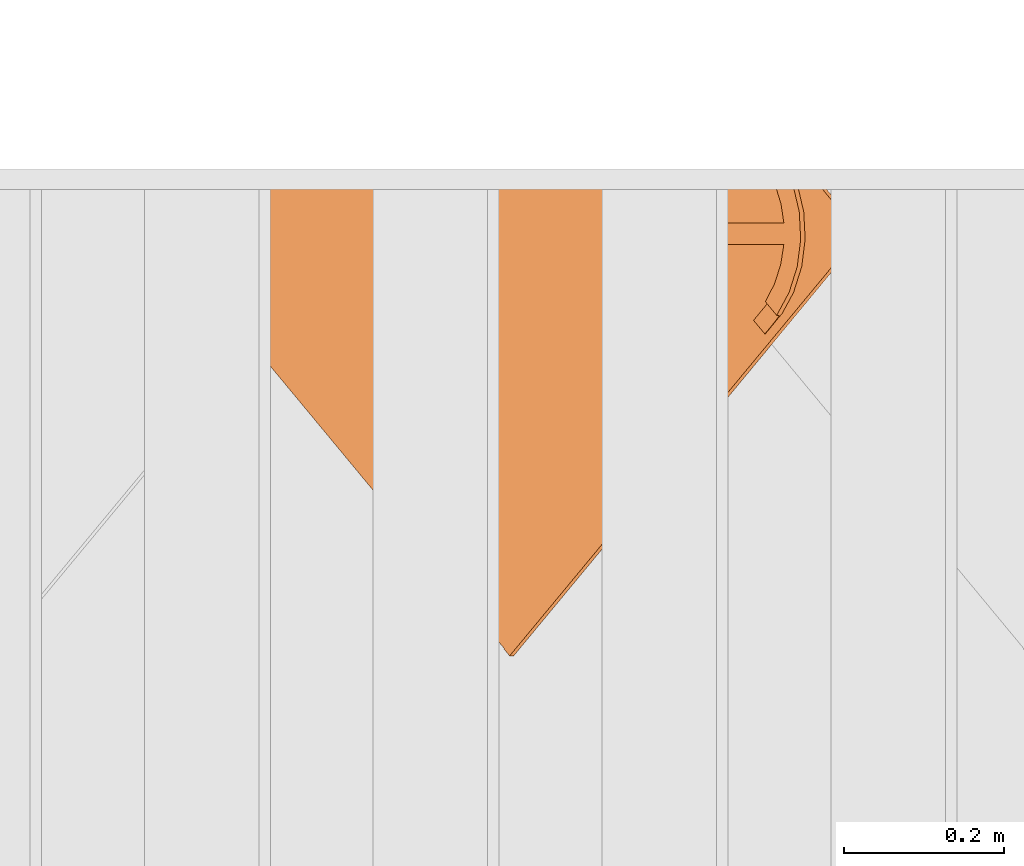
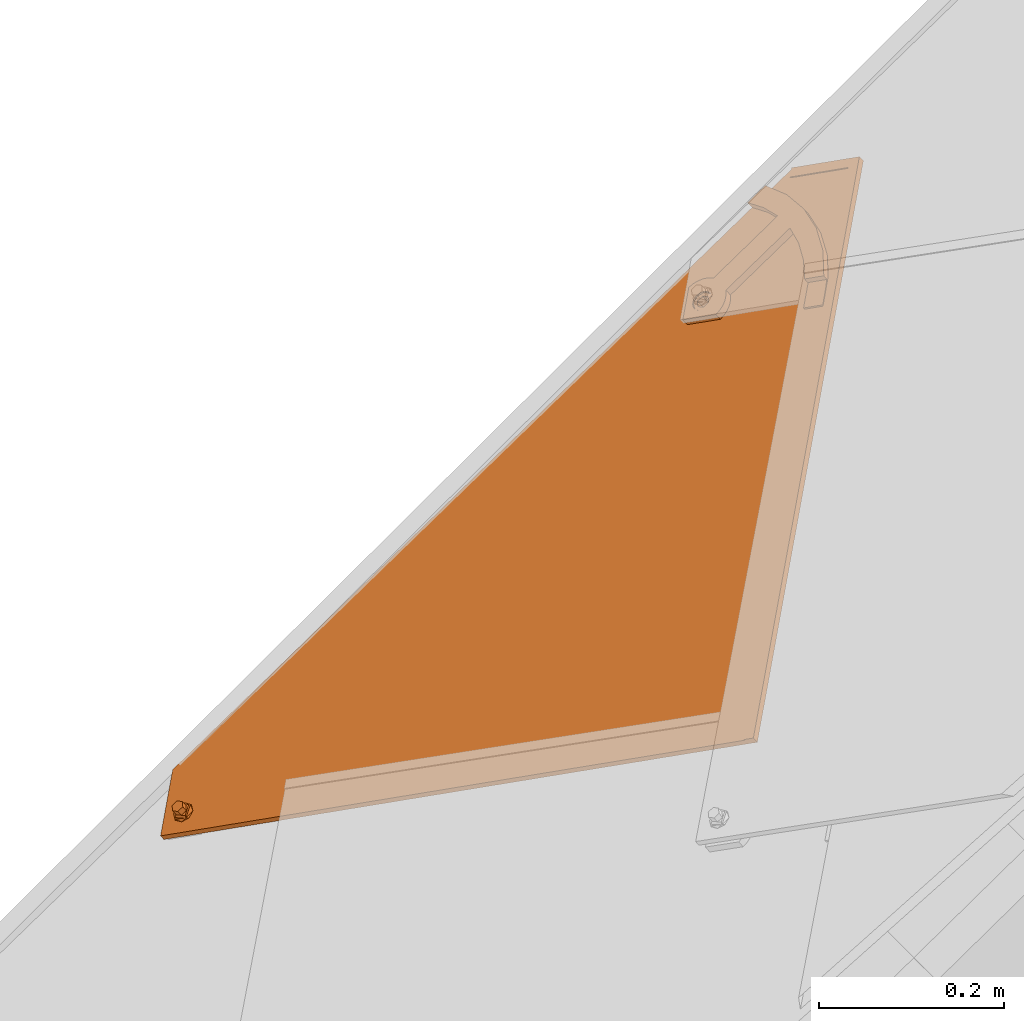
# One storey, part 91 of 151: 1 proxy.
"""IFC2X3 building model written with IfcOpenShell, lengths in millimetres."""

from ifc_helpers import new_model, entity, si_unit, converted_unit, derived_unit, direction, frame, origin, place, context, subcontext, project, spatial, faceted_brep, source, transform, mapped, material, material_list, type_object, type_shapes, element, save


model = new_model("IFC2X3")

# Units and contexts
model_context = context("Model", 3, precision=0.01, world=origin(), true_north=direction((6.12303176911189e-17, 1.0)))
body_context = subcontext(model_context, "Body", "Model", "MODEL_VIEW")
ifc_project = project(units=[si_unit("LENGTHUNIT", "METRE", prefix="MILLI"), si_unit("AREAUNIT", "SQUARE_METRE"), si_unit("VOLUMEUNIT", "CUBIC_METRE"), converted_unit("PLANEANGLEUNIT", "DEGREE", entity("IfcRatioMeasure", 0.0174532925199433), si_unit("PLANEANGLEUNIT", "RADIAN"), dimensions=[0, 0, 0, 0, 0, 0, 0]), si_unit("MASSUNIT", "GRAM", prefix="KILO"), derived_unit("MASSDENSITYUNIT", [(si_unit("MASSUNIT", "GRAM", prefix="KILO"), 1), (si_unit("LENGTHUNIT", "METRE"), -3)]), si_unit("TIMEUNIT", "SECOND"), si_unit("FREQUENCYUNIT", "HERTZ"), si_unit("THERMODYNAMICTEMPERATUREUNIT", "DEGREE_CELSIUS"), derived_unit("THERMALTRANSMITTANCEUNIT", [(si_unit("MASSUNIT", "GRAM", prefix="KILO"), 1), (si_unit("THERMODYNAMICTEMPERATUREUNIT", "KELVIN"), -1), (si_unit("TIMEUNIT", "SECOND"), -3)]), derived_unit("VOLUMETRICFLOWRATEUNIT", [(si_unit("LENGTHUNIT", "METRE"), 3), (si_unit("TIMEUNIT", "SECOND"), -1)]), si_unit("ELECTRICCURRENTUNIT", "AMPERE"), si_unit("ELECTRICVOLTAGEUNIT", "VOLT"), si_unit("POWERUNIT", "WATT"), si_unit("FORCEUNIT", "NEWTON", prefix="KILO"), si_unit("ILLUMINANCEUNIT", "LUX"), si_unit("LUMINOUSFLUXUNIT", "LUMEN"), si_unit("LUMINOUSINTENSITYUNIT", "CANDELA"), derived_unit("USERDEFINED", [(si_unit("MASSUNIT", "GRAM", prefix="KILO"), -1), (si_unit("LENGTHUNIT", "METRE"), -2), (si_unit("TIMEUNIT", "SECOND"), 3), (si_unit("LUMINOUSFLUXUNIT", "LUMEN"), 1)]), derived_unit("LINEARVELOCITYUNIT", [(si_unit("LENGTHUNIT", "METRE"), 1), (si_unit("TIMEUNIT", "SECOND"), -1)]), si_unit("PRESSUREUNIT", "PASCAL"), derived_unit("USERDEFINED", [(si_unit("LENGTHUNIT", "METRE"), -2), (si_unit("MASSUNIT", "GRAM", prefix="KILO"), 1), (si_unit("TIMEUNIT", "SECOND"), -2)])], contexts=[model_context])

# Site, building, storey
site_placement = place(None, origin())
site = spatial("IfcSite", under=ifc_project, at=site_placement, Name="Default", CompositionType="ELEMENT")
building_placement = place(site_placement, origin())
building = spatial("IfcBuilding", under=site, at=building_placement, CompositionType="ELEMENT")
storey_placement = place(building_placement, origin())
storey = spatial("IfcBuildingStorey", under=building, at=storey_placement, Name="Level 1", CompositionType="ELEMENT", Elevation=0.0)

# Proxy
ifc_material_1 = material(Name="Rubber - Sunstyle - Black")
ifc_material_2 = material(Name="Glass - Sunstyle - Tainted Black")
ifc_material_list_1 = material_list([ifc_material_1, ifc_material_2])
ifc_material_list_2 = material_list([ifc_material_1, ifc_material_2])
building_element_proxy_type = type_object("IfcBuildingElementProxyType", Name="Shingle Left - Black", PredefinedType="NOTDEFINED", material=ifc_material_list_2)
shared_shape = source(origin(), body_context, "Body", "Brep", [
    faceted_brep([(0.0, -484.792260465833, 4.00636906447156), (-5.77420283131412, -488.125530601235, 4.06219304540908), (-5.77420283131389, -487.757221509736, 26.0540623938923), (0.0, -484.423951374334, 25.9982384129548), (-5.77420283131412, -494.792070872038, 4.17384100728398), (-5.7742028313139, -494.42376178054, 26.1657103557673), (0.0, -498.12534100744, 4.22966498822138), (0.0, -497.757031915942, 26.2215343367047), (5.77420283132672, -494.792070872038, 4.17384100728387), (5.77420283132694, -494.42376178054, 26.1657103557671), (5.77420283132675, -488.125530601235, 4.06219304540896), (5.77420283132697, -487.757221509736, 26.0540623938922), (-8.60370416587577, -499.692989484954, 26.2539568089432), (0.0, -503.256260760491, 26.3136327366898), (-12.1674751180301, -491.090491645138, 26.1098863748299), (-8.60370416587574, -482.487993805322, 25.9658159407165), (0.0, -478.924722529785, 25.9061400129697), (8.60370416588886, -482.487993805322, 25.9658159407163), (12.1674751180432, -491.090491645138, 26.1098863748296), (8.60370416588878, -499.692989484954, 26.253956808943), (-11.324244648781, -488.795414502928, 28.4227283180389), (-9.75647455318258, -491.019476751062, 30.3502110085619), (0.0, -483.706401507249, 30.9829114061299), (0.0, -482.465903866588, 30.4025647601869), (0.0, -480.308353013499, 29.3931896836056), (0.0, -502.700216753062, 27.5886907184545), (0.0, -501.756640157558, 29.7523951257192), (0.0, -498.307264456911, 31.2274395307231), (0.0, -479.437758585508, 27.1991024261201), (-6.32324569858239, -494.657048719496, 31.1663074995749), (-6.32324569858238, -487.356617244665, 31.0440434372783), (11.3242446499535, -493.306834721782, 28.498283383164), (9.84888015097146, -492.093883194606, 30.2713428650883), (6.32324569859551, -487.356617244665, 31.0440434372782), (6.32324569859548, -494.657048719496, 31.1663074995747), (-6.32324569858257, -494.523020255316, 39.1691956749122), (0.0, -498.173235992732, 39.2303277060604), (0.0, -490.8728045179, 39.1080636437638), (-6.32324569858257, -487.222588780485, 39.0469316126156), (6.32324569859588, -494.523020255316, 39.1691956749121), (6.32324569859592, -487.222588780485, 39.0469316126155), (0.0, -483.572373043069, 38.9857995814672), (0.0, -491.458800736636, 4.11801702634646)], [[[0, 1, 2, 3]], [[1, 4, 5, 2]], [[4, 6, 7, 5]], [[6, 8, 9, 7]], [[8, 10, 11, 9]], [[10, 0, 3, 11]], [[12, 7, 13]], [[7, 12, 5]], [[14, 5, 12]], [[5, 14, 2]], [[15, 2, 14]], [[3, 2, 15]], [[15, 16, 3]], [[16, 17, 3]], [[11, 3, 17]], [[11, 17, 18]], [[9, 11, 18]], [[18, 19, 9]], [[7, 9, 19]], [[19, 13, 7]], [[20, 14, 12]], [[21, 22, 23, 24]], [[24, 20, 21]], [[25, 20, 12]], [[26, 27, 21]], [[15, 14, 20]], [[12, 13, 25]], [[20, 28, 15]], [[28, 20, 24]], [[21, 27, 29]], [[21, 29, 30]], [[26, 21, 20]], [[20, 25, 26]], [[15, 28, 16]], [[21, 30, 22]], [[31, 18, 17]], [[28, 31, 17]], [[32, 27, 26]], [[26, 31, 32]], [[26, 25, 31]], [[25, 19, 31]], [[17, 16, 28]], [[31, 19, 18]], [[24, 31, 28]], [[33, 34, 32]], [[23, 22, 33]], [[24, 32, 31]], [[27, 32, 34]], [[32, 23, 33]], [[19, 25, 13]], [[32, 24, 23]], [[35, 36, 37]], [[37, 38, 35]], [[36, 39, 37]], [[40, 37, 39]], [[37, 40, 41]], [[37, 41, 38]], [[42, 6, 4]], [[4, 1, 42]], [[1, 0, 42]], [[42, 8, 6]], [[0, 10, 42]], [[8, 42, 10]], [[22, 30, 38, 41]], [[30, 29, 35, 38]], [[29, 27, 36, 35]], [[27, 34, 39, 36]], [[34, 33, 40, 39]], [[33, 22, 41, 40]]]),
    faceted_brep([(0.0, 284.339364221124, 20.2838091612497), (0.0, 288.838732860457, 20.2084559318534), (-8.60370416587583, 287.902635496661, 20.224133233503), (8.60370416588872, 287.902635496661, 20.2241332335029), (6.64022859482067, 292.671933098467, 20.1442593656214), (12.1674751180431, 296.505133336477, 20.0800627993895), (6.64022859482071, 300.338333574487, 20.0158662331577), (8.6037041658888, 305.107631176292, 19.9359923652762), (0.0, 304.171533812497, 19.9516696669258), (0.0, 308.670902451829, 19.8763164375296), (-8.60370416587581, 305.107631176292, 19.9359923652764), (-6.64022859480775, 300.338333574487, 20.0158662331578), (-12.1674751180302, 296.505133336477, 20.0800627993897), (-6.64022859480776, 292.671933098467, 20.1442593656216), (-6.64022823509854, 300.070410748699, 4.01810959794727), (0.0, 303.90361077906, 3.95391303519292), (-6.64022823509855, 292.404010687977, 4.14650272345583), (0.0, 288.570810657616, 4.21069928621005), (6.64022823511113, 292.404010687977, 4.1465027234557), (6.64022823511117, 300.070410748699, 4.01810959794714), (-8.603704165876, 287.634712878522, 4.22637659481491), (0.0, 284.071441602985, 4.28605252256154), (-12.1674751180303, 296.237210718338, 4.08230616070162), (-8.60370416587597, 304.839708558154, 3.93823572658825), (0.0, 308.402979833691, 3.87855979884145), (8.60370416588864, 304.839708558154, 3.93823572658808), (12.1674751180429, 296.237210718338, 4.08230616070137), (8.60370416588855, 287.634712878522, 4.22637659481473)], [[[0, 1, 2]], [[1, 0, 3]], [[3, 4, 1]], [[4, 3, 5]], [[6, 4, 5]], [[5, 7, 6]], [[7, 8, 6]], [[8, 7, 9]], [[8, 9, 10]], [[10, 11, 8]], [[12, 11, 10]], [[2, 13, 12]], [[12, 13, 11]], [[13, 2, 1]], [[8, 11, 14, 15]], [[11, 13, 16, 14]], [[13, 1, 17, 16]], [[1, 4, 18, 17]], [[4, 6, 19, 18]], [[6, 8, 15, 19]], [[20, 17, 21]], [[17, 20, 16]], [[22, 16, 20]], [[14, 16, 22]], [[23, 14, 22]], [[15, 14, 23]], [[23, 24, 15]], [[24, 25, 15]], [[19, 15, 25]], [[19, 25, 26]], [[26, 18, 19]], [[26, 27, 18]], [[17, 18, 27]], [[27, 21, 17]], [[24, 23, 10, 9]], [[10, 23, 22, 12]], [[20, 21, 0, 2]], [[20, 2, 12, 22]], [[21, 27, 3, 0]], [[3, 27, 26, 5]], [[25, 24, 9, 7]], [[25, 7, 5, 26]]]),
    faceted_brep([(518.309865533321, -8.21171787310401, 16.4411500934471), (526.794551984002, 0.272968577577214, 16.299052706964), (526.794551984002, 0.298086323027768, 17.798842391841), (518.309865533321, -8.18660012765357, 17.9409397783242), (0.0, 509.952813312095, 7.76318349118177), (-51.6190674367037, 458.348219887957, 8.62743202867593), (-60.1037538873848, 466.832906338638, 8.48533464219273), (0.0, 526.919807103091, 7.47902856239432), (0.0, 526.944924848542, 8.97881824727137), (-60.1037538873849, 466.858024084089, 9.98512432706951), (-51.6190674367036, 458.373337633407, 10.1272217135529), (0.0, 509.977931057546, 9.26297317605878)], [[[0, 1, 2, 3]], [[1, 0, 4, 5, 6, 7]], [[2, 1, 7, 8]], [[3, 2, 8, 9, 10, 11]], [[0, 3, 11, 4]], [[5, 10, 9, 6]], [[8, 7, 6, 9]], [[4, 11, 10, 5]]]),
    faceted_brep([(3.08877637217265, 308.328619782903, 11.1398870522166), (0.0, 526.91980710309, 7.47902856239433), (-60.1037538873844, 466.832906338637, 8.48533464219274), (5.98294783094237, 307.129982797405, 11.1599612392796), (-0.0170521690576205, 308.737452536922, 11.133040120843), (8.46822920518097, 305.223226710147, 11.1918946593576), (10.3752526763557, 302.738293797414, 11.2335111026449), (11.5740577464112, 299.844528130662, 11.2819744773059), (526.794551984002, 0.272968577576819, 16.299052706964), (11.9829478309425, 296.739135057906, 11.3339820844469), (11.5740577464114, 293.63374198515, 11.3859896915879), (10.3752526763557, 290.739976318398, 11.4344530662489), (8.46822920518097, 288.255043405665, 11.4760695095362), (5.9829478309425, 286.348287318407, 11.5080029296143), (3.08877637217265, 285.149650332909, 11.5280771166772), (2.03352718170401, -483.329519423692, 24.3981910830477), (-60.1037538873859, -466.286969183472, 24.112770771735), (-0.0170521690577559, 284.74081757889, 11.5349240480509), (-3.12288071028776, 285.149650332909, 11.5280771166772), (-6.01705216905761, 286.348287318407, 11.5080029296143), (-8.50233354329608, 288.255043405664, 11.4760695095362), (-10.409357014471, 290.739976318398, 11.4344530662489), (-11.6081620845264, 293.63374198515, 11.3859896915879), (-12.0170521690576, 296.739135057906, 11.3339820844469), (-11.6081620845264, 299.844528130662, 11.2819744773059), (-10.4093570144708, 302.738293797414, 11.2335111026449), (-8.50233354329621, 305.223226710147, 11.1918946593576), (-6.01705216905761, 307.129982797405, 11.1599612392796), (-3.12288071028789, 308.328619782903, 11.1398870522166), (-0.0370251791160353, -483.056964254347, 24.3936264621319), (-2.10757753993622, -483.329519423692, 24.3981910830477), (-4.03702517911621, -484.128610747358, 24.411573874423), (-5.69387942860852, -485.399781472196, 24.4328628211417), (-6.96522840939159, -487.056403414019, 24.4606071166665), (-7.76443178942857, -488.985580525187, 24.4929160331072), (-8.03702517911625, -491.055842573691, 24.5275877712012), (-7.76443178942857, -493.126104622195, 24.5622595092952), (-6.96522840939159, -495.055281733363, 24.5945684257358), (0.0, -526.373869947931, 25.1190768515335), (-5.69387942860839, -496.711903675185, 24.6223127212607), (-4.03702517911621, -497.983074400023, 24.6436016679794), (-2.10757753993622, -498.782165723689, 24.6569844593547), (-0.0370251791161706, -499.054720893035, 24.6615490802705), (2.03352718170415, -498.782165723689, 24.6569844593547), (3.96297482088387, -497.983074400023, 24.6436016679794), (5.61982907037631, -496.711903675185, 24.6223127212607), (6.89117805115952, -495.055281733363, 24.5945684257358), (7.6903814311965, -493.126104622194, 24.5622595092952), (3.96297482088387, -484.128610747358, 24.411573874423), (5.61982907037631, -485.399781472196, 24.4328628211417), (6.89117805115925, -487.056403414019, 24.4606071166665), (7.6903814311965, -488.985580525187, 24.4929160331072), (7.96297482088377, -491.055842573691, 24.5275877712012), (-60.1037538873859, -466.412557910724, 16.6138223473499), (-6.96522840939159, -487.181992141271, 16.9616586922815), (-7.7644317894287, -489.111169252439, 16.9939676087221), (-5.69387942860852, -485.525370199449, 16.9339143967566), (-8.03702517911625, -491.181431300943, 17.0286393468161), (-7.76443178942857, -493.251693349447, 17.0633110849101), (-6.96522840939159, -495.180870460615, 17.0956200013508), (0.0, -526.499458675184, 17.6201284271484), (-4.03702517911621, -484.254199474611, 16.9126254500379), (-2.10757753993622, -483.455108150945, 16.8992426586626), (-0.0370251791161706, -483.182552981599, 16.8946780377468), (2.03352718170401, -483.455108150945, 16.8992426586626), (3.08877637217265, 285.024061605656, 4.02912869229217), (-0.0170521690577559, 284.615228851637, 4.03597562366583), (-3.12288071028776, 285.024061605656, 4.02912869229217), (-6.01705216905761, 286.222698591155, 4.00905450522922), (-8.50233354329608, 288.129454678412, 3.97712108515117), (-10.409357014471, 290.614387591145, 3.93550464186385), (-11.6081620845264, 293.508153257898, 3.88704126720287), (-60.1037538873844, 466.707317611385, 0.986386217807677), (-12.0170521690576, 296.613546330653, 3.83503366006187), (-11.6081620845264, 299.718939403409, 3.78302605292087), (-10.4093570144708, 302.612705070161, 3.73456267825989), (-8.50233354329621, 305.097637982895, 3.69294623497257), (-6.01705216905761, 307.004394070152, 3.66101281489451), (-3.12288071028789, 308.203031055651, 3.64093862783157), (-0.0170521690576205, 308.61186380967, 3.63409169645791), (3.08877637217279, 308.203031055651, 3.64093862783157), (0.0, 526.794218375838, -0.0199198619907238), (5.98294783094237, 307.004394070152, 3.66101281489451), (8.46822920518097, 305.097637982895, 3.69294623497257), (10.3752526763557, 302.612705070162, 3.73456267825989), (11.5740577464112, 299.718939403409, 3.78302605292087), (526.794551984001, 0.147379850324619, 8.8001042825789), (3.96297482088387, -484.254199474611, 16.9126254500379), (5.61982907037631, -485.525370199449, 16.9339143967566), (7.6903814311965, -493.251693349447, 17.0633110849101), (7.96297482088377, -491.181431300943, 17.0286393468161), (7.6903814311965, -489.111169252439, 16.9939676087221), (6.89117805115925, -487.181992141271, 16.9616586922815), (5.9829478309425, 286.222698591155, 4.00905450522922), (8.46822920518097, 288.129454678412, 3.97712108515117), (11.9829478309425, 296.613546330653, 3.83503366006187), (11.5740577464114, 293.508153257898, 3.88704126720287), (10.3752526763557, 290.614387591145, 3.93550464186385), (-5.69387942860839, -496.837492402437, 17.1233642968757), (-4.03702517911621, -498.108663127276, 17.1446532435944), (-2.10757753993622, -498.907754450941, 17.1580360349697), (-0.0370251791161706, -499.180309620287, 17.1626006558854), (2.03352718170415, -498.907754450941, 17.1580360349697), (3.96297482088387, -498.108663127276, 17.1446532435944), (5.61982907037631, -496.837492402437, 17.1233642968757), (6.89117805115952, -495.180870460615, 17.0956200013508)], [[[0, 1, 2]], [[0, 3, 1]], [[4, 0, 2]], [[1, 3, 5]], [[6, 1, 5]], [[7, 1, 6]], [[7, 8, 1]], [[9, 8, 7]], [[8, 9, 10]], [[8, 10, 11]], [[11, 12, 8]], [[12, 13, 8]], [[13, 14, 8]], [[14, 15, 8]], [[14, 16, 15]], [[16, 14, 17]], [[16, 17, 18]], [[16, 18, 19]], [[20, 16, 19]], [[20, 21, 16]], [[21, 22, 16]], [[23, 2, 22]], [[2, 16, 22]], [[23, 24, 2]], [[25, 2, 24]], [[25, 26, 2]], [[26, 27, 2]], [[28, 2, 27]], [[4, 2, 28]], [[16, 29, 15]], [[29, 16, 30]], [[30, 16, 31]], [[16, 32, 31]], [[32, 16, 33]], [[33, 16, 34]], [[35, 34, 16]], [[35, 16, 36]], [[37, 36, 16]], [[16, 38, 37]], [[39, 37, 38]], [[40, 39, 38]], [[41, 40, 38]], [[38, 42, 41]], [[42, 38, 43]], [[44, 43, 38]], [[44, 38, 45]], [[46, 45, 38]], [[47, 46, 38]], [[47, 38, 8]], [[48, 8, 15]], [[48, 49, 8]], [[50, 8, 49]], [[51, 8, 50]], [[52, 47, 8]], [[52, 8, 51]], [[53, 54, 55]], [[54, 53, 56]], [[53, 55, 57]], [[57, 58, 53]], [[58, 59, 53]], [[53, 59, 60]], [[61, 56, 53]], [[62, 61, 53]], [[62, 53, 63]], [[64, 63, 53]], [[53, 65, 64]], [[65, 53, 66]], [[66, 53, 67]], [[67, 53, 68]], [[69, 68, 53]], [[70, 69, 53]], [[71, 70, 53]], [[71, 53, 72]], [[73, 71, 72]], [[74, 73, 72]], [[75, 74, 72]], [[76, 75, 72]], [[72, 77, 76]], [[78, 77, 72]], [[79, 78, 72]], [[79, 72, 80]], [[80, 72, 81]], [[82, 80, 81]], [[81, 83, 82]], [[83, 81, 84]], [[84, 81, 85]], [[86, 85, 81]], [[64, 86, 87]], [[88, 87, 86]], [[60, 89, 86]], [[90, 86, 89]], [[90, 91, 86]], [[91, 92, 86]], [[88, 86, 92]], [[65, 86, 64]], [[65, 93, 86]], [[93, 94, 86]], [[86, 95, 85]], [[95, 86, 96]], [[97, 96, 86]], [[97, 86, 94]], [[98, 60, 59]], [[98, 99, 60]], [[99, 100, 60]], [[101, 60, 100]], [[60, 101, 102]], [[60, 102, 103]], [[103, 104, 60]], [[104, 105, 60]], [[105, 89, 60]], [[2, 1, 81, 72]], [[38, 16, 53, 60]], [[8, 38, 60, 86]], [[1, 8, 86, 81]], [[35, 57, 55, 34]], [[34, 55, 54, 33]], [[31, 32, 56, 61]], [[56, 32, 33, 54]], [[30, 31, 61, 62]], [[30, 62, 63, 29]], [[29, 63, 64, 15]], [[15, 64, 87, 48]], [[50, 49, 88, 92]], [[88, 49, 48, 87]], [[51, 50, 92, 91]], [[51, 91, 90, 52]], [[52, 90, 89, 47]], [[47, 89, 105, 46]], [[44, 45, 104, 103]], [[104, 45, 46, 105]], [[43, 44, 103, 102]], [[43, 102, 101, 42]], [[42, 101, 100, 41]], [[41, 100, 99, 40]], [[37, 39, 98, 59]], [[98, 39, 40, 99]], [[36, 37, 59, 58]], [[36, 58, 57, 35]], [[23, 73, 74, 24]], [[24, 74, 75, 25]], [[27, 26, 76, 77]], [[76, 26, 25, 75]], [[28, 27, 77, 78]], [[28, 78, 79, 4]], [[4, 79, 80, 0]], [[0, 80, 82, 3]], [[6, 5, 83, 84]], [[83, 5, 3, 82]], [[7, 6, 84, 85]], [[7, 85, 95, 9]], [[9, 95, 96, 10]], [[10, 96, 97, 11]], [[13, 12, 94, 93]], [[94, 12, 11, 97]], [[14, 13, 93, 65]], [[14, 65, 66, 17]], [[17, 66, 67, 18]], [[18, 67, 68, 19]], [[21, 20, 69, 70]], [[69, 20, 19, 68]], [[22, 21, 70, 71]], [[22, 71, 73, 23]], [[16, 2, 72, 53]]]),
    faceted_brep([(-60.2957264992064, 433.002673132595, 19.0533091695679), (-60.2957264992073, 406.276440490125, 19.5009070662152), (-37.4519584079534, 414.732964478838, 19.3592813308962), (-27.2461400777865, 442.315205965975, 18.8973474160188), (-13.4919726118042, 419.124350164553, 19.2857365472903), (7.02526451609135, 444.434715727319, 18.8618509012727), (13.1080273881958, 419.12435016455, 19.2857365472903), (13.1080273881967, 322.716549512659, 20.9003273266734), (-13.4919726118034, 322.716549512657, 20.9003273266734), (-0.191972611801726, 308.510747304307, 21.1382391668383), (-3.29780115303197, 308.101914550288, 21.145086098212), (-6.19197261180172, 306.90327756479, 21.1651602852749), (-18.8960787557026, 319.178501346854, 20.9595808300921), (-8.67725398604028, 304.996521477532, 21.197093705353), (-23.3966230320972, 314.545495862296, 21.0371721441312), (-10.584277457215, 302.511588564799, 21.2387101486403), (-26.776192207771, 309.041345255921, 21.1293529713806), (-11.7830825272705, 299.617822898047, 21.2871735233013), (-28.8715253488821, 302.931945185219, 21.231670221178), (-12.1919726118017, 296.512429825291, 21.3391811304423), (-29.5814006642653, 296.512429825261, 21.3391811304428), (-11.7830825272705, 293.407036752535, 21.3911887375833), (-10.5842774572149, 290.513271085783, 21.4396521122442), (-8.67725398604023, 288.028338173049, 21.4812685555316), (-0.191972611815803, 267.127122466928, 21.8313119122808), (-6.19197261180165, 286.121582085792, 21.5132019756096), (-3.2978011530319, 284.922945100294, 21.5332761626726), (-0.19197261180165, 284.514112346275, 21.5401230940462), (2.9138559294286, 284.922945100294, 21.5332761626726), (5.80802738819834, 286.121582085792, 21.5132019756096), (8.29330876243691, 288.028338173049, 21.4812685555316), (29.197455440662, 296.512429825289, 21.3391811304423), (10.2003322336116, 290.513271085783, 21.4396521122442), (11.3991373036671, 293.407036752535, 21.3911887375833), (11.8080273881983, 296.512429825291, 21.3391811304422), (28.4875801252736, 302.931945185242, 21.2316702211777), (11.3991373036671, 299.617822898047, 21.2871735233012), (26.3922469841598, 309.041345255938, 21.1293529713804), (10.2003322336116, 302.511588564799, 21.2387101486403), (23.0126778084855, 314.545495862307, 21.037172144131), (8.29330876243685, 304.996521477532, 21.197093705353), (18.5121335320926, 319.178501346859, 20.959580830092), (5.80802738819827, 306.90327756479, 21.1651602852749), (2.91385592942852, 308.101914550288, 21.145086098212), (40.9707248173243, 439.265481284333, 18.9484227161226), (38.5777701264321, 414.309469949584, 19.3663738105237), (73.0571986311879, 427.0409551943, 19.1531531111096), (62.7323605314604, 404.905836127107, 19.523861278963), (84.7524233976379, 391.232440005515, 19.7528566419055), (101.835599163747, 408.313220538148, 19.4667960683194), (-10.5842774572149, 290.345819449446, 11.4410542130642), (-29.5814006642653, 296.344978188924, 11.3405832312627), (-11.7830825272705, 293.239585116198, 11.3925908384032), (-8.67725398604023, 287.860886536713, 11.4826706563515), (-0.191972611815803, 266.959670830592, 11.8327140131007), (-6.19197261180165, 285.954130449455, 11.5146040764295), (-3.2978011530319, 284.755493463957, 11.5346782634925), (-0.19197261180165, 284.346660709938, 11.5415251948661), (2.9138559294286, 284.755493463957, 11.5346782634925), (5.80802738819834, 285.954130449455, 11.5146040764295), (8.29330876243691, 287.860886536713, 11.4826706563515), (29.197455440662, 296.344978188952, 11.3405832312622), (10.2003322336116, 290.345819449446, 11.4410542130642), (11.3991373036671, 293.239585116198, 11.3925908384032), (11.8080273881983, 296.344978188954, 11.3405832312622), (28.4875801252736, 302.764493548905, 11.2330723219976), (11.3991373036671, 299.45037126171, 11.2885756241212), (26.3922469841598, 308.873893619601, 11.1307550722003), (10.2003322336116, 302.344136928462, 11.2401122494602), (23.0126778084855, 314.378044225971, 11.038574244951), (8.29330876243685, 304.829069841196, 11.1984958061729), (18.5121335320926, 319.011049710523, 10.960982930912), (5.80802738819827, 306.735825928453, 11.1665623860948), (13.1080273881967, 322.549097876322, 10.9017294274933), (2.91385592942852, 307.934462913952, 11.1464881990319), (-0.191972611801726, 308.34329566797, 11.1396412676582), (-13.4919726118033, 322.54909787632, 10.9017294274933), (-3.29780115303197, 307.934462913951, 11.1464881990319), (-6.19197261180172, 306.735825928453, 11.1665623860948), (-18.8960787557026, 319.011049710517, 10.9609829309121), (-8.67725398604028, 304.829069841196, 11.1984958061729), (-23.3966230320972, 314.37804422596, 11.0385742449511), (-10.584277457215, 302.344136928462, 11.2401122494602), (-26.776192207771, 308.873893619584, 11.1307550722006), (-11.7830825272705, 299.45037126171, 11.2885756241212), (-28.8715253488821, 302.764493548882, 11.233072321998), (-12.1919726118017, 296.344978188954, 11.3405832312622), (-13.4919726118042, 418.956898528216, 9.28713864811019), (13.1080273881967, 418.956898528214, 9.28713864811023), (7.02526451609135, 444.267264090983, 8.86325300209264), (-27.2461400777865, 442.147754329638, 8.89874951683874), (-37.4519584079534, 414.565512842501, 9.36068343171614), (-60.2957264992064, 432.835221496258, 9.05471127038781), (-60.2957264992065, 406.108988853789, 9.5023091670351), (40.9707248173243, 439.098029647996, 8.94982481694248), (38.5777701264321, 414.142018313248, 9.36777591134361), (73.0571986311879, 426.873503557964, 9.15455521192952), (62.7323605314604, 404.738384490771, 9.5252633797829), (84.9699227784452, 391.282457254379, 9.75061668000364), (101.363550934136, 407.672574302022, 9.47612300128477), (101.835599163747, 408.145768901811, 9.46819816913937), (107.666988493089, 402.274283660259, 9.56653093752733), (113.684870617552, 396.559480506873, 9.66223967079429), (108.027097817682, 368.228515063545, 10.1367128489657), (125.024248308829, 385.223282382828, 9.85209278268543), (84.7524233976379, 391.064988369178, 9.75425874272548), (125.024248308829, 385.265145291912, 12.3517422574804), (113.684870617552, 396.601343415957, 12.1618891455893), (107.666988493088, 402.316146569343, 12.0661804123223), (101.362944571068, 407.715043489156, 11.975762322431), (84.9693798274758, 391.324863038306, 12.2502570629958), (108.027097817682, 368.270377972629, 12.6363623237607)], [[[0, 1, 2]], [[0, 2, 3]], [[2, 4, 3]], [[3, 4, 5]], [[5, 4, 6]], [[7, 6, 4]], [[7, 4, 8]], [[9, 7, 8]], [[9, 8, 10]], [[10, 8, 11]], [[12, 11, 8]], [[11, 12, 13]], [[14, 13, 12]], [[13, 14, 15]], [[15, 14, 16]], [[17, 15, 16]], [[18, 17, 16]], [[18, 19, 17]], [[19, 18, 20]], [[20, 21, 19]], [[20, 22, 21]], [[22, 20, 23]], [[23, 20, 24]], [[24, 25, 23]], [[26, 25, 24]], [[24, 27, 26]], [[28, 27, 24]], [[28, 24, 29]], [[30, 29, 24]], [[30, 24, 31]], [[31, 32, 30]], [[33, 32, 31]], [[31, 34, 33]], [[35, 34, 31]], [[34, 35, 36]], [[36, 35, 37]], [[36, 37, 38]], [[38, 37, 39]], [[39, 40, 38]], [[39, 41, 40]], [[7, 42, 41]], [[40, 41, 42]], [[42, 7, 43]], [[43, 7, 9]], [[44, 5, 6]], [[44, 6, 45]], [[45, 46, 44]], [[46, 45, 47]], [[47, 48, 46]], [[49, 46, 48]], [[50, 51, 52]], [[51, 50, 53]], [[54, 51, 53]], [[53, 55, 54]], [[56, 54, 55]], [[57, 54, 56]], [[57, 58, 54]], [[58, 59, 54]], [[60, 54, 59]], [[60, 61, 54]], [[60, 62, 61]], [[62, 63, 61]], [[63, 64, 61]], [[64, 65, 61]], [[65, 64, 66]], [[66, 67, 65]], [[68, 67, 66]], [[67, 68, 69]], [[69, 68, 70]], [[71, 69, 70]], [[71, 70, 72]], [[72, 73, 71]], [[72, 74, 73]], [[75, 73, 74]], [[76, 73, 75]], [[77, 76, 75]], [[76, 77, 78]], [[79, 76, 78]], [[78, 80, 79]], [[81, 79, 80]], [[81, 80, 82]], [[81, 82, 83]], [[82, 84, 83]], [[84, 85, 83]], [[86, 85, 84]], [[52, 51, 86]], [[85, 86, 51]], [[73, 76, 87]], [[88, 73, 87]], [[88, 87, 89]], [[90, 89, 87]], [[87, 91, 90]], [[91, 92, 90]], [[93, 92, 91]], [[88, 89, 94]], [[88, 94, 95]], [[96, 95, 94]], [[96, 97, 95]], [[98, 97, 96]], [[96, 99, 98]], [[96, 100, 99]], [[98, 99, 101]], [[102, 98, 101]], [[98, 102, 103]], [[104, 103, 102]], [[105, 97, 98]], [[8, 4, 87, 76]], [[12, 8, 76, 79]], [[14, 12, 79, 81]], [[81, 83, 16, 14]], [[18, 16, 83, 85]], [[20, 18, 85, 51]], [[24, 20, 51, 54]], [[31, 24, 54, 61]], [[35, 31, 61, 65]], [[37, 35, 65, 67]], [[67, 69, 39, 37]], [[41, 39, 69, 71]], [[7, 41, 71, 73]], [[6, 7, 73, 88]], [[46, 49, 100, 96]], [[44, 46, 96, 94]], [[94, 89, 5, 44]], [[3, 5, 89, 90]], [[3, 90, 92, 0]], [[19, 86, 84, 17]], [[17, 84, 82, 15]], [[11, 13, 80, 78]], [[82, 80, 13, 15]], [[10, 11, 78, 77]], [[75, 9, 10, 77]], [[43, 74, 72, 42]], [[42, 72, 70, 40]], [[36, 38, 68, 66]], [[70, 68, 38, 40]], [[34, 36, 66, 64]], [[43, 9, 75, 74]], [[34, 64, 63, 33]], [[33, 63, 62, 32]], [[29, 30, 60, 59]], [[62, 60, 30, 32]], [[28, 29, 59, 58]], [[57, 27, 28, 58]], [[26, 56, 55, 25]], [[25, 55, 53, 23]], [[21, 22, 50, 52]], [[53, 50, 22, 23]], [[19, 21, 52, 86]], [[26, 27, 57, 56]], [[106, 107, 108, 109, 110, 111]], [[107, 106, 104, 102]], [[106, 111, 103, 104]], [[107, 102, 101, 108]], [[101, 99, 109]], [[101, 109, 108]], [[111, 110, 98, 103]], [[48, 110, 109]], [[110, 48, 105]], [[49, 48, 109, 100]], [[105, 98, 110]], [[99, 100, 109]], [[93, 91, 2, 1]], [[87, 4, 2, 91]], [[88, 95, 45, 6]], [[95, 97, 47, 45]], [[97, 105, 48, 47]], [[1, 0, 92, 93]]]),
])
type_shapes(building_element_proxy_type, [shared_shape])
proxy_placement = place(storey_placement, frame((-569.253425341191, 3870.09519417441, 1546.67469661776), z_axis=(-0.57357643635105, 0.0, 0.819152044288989), x_axis=(0.0, -1.0, 0.0)))
element("IfcBuildingElementProxy", 1, at=proxy_placement, inside=storey, type_object=building_element_proxy_type, material=ifc_material_list_1, Name="Roofing_Panels_SunStyle_Tile_Shingle-Left:Shingle Left - Black", ObjectType="Roofing_Panels_SunStyle_Tile_Shingle-Left:Shingle Left - Black", context=body_context, shape_type="MappedRepresentation", body=[
    mapped(shared_shape, transform((0.0, 0.0, 0.0), scale=1.0)),
])

save(model, "model.ifc")
